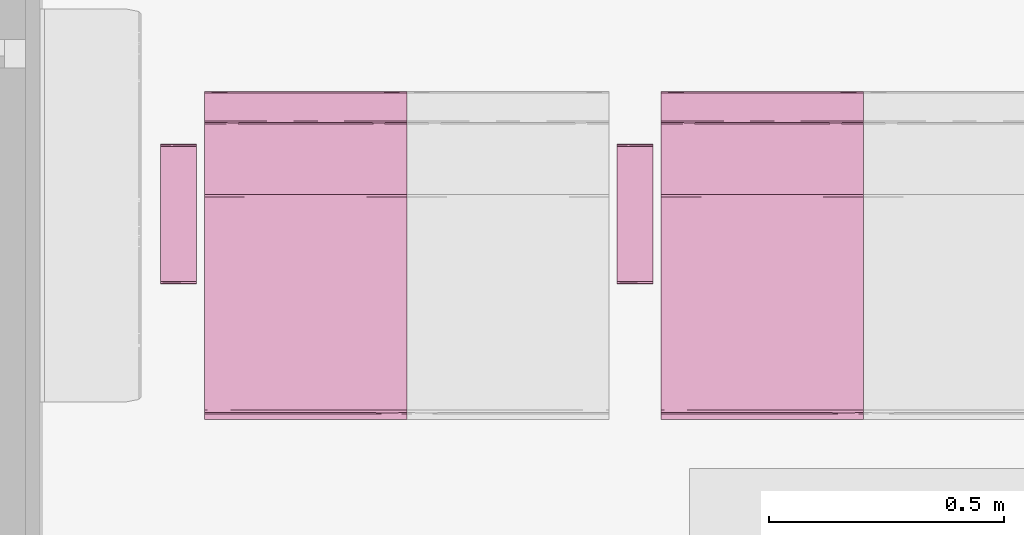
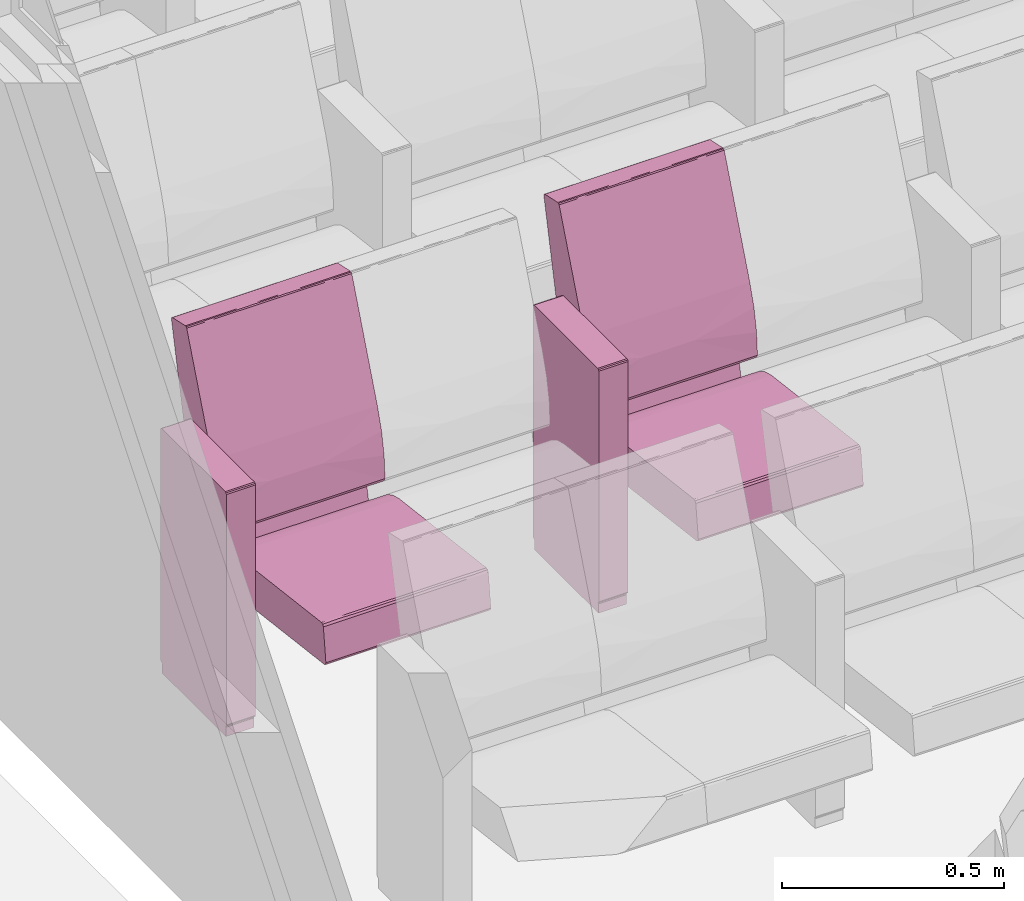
# One storey, part 95 of 155: 2 furnishings.
"""IFC2X3 building model written with IfcOpenShell, lengths in metres."""

from ifc_helpers import new_model, entity, si_unit, converted_unit, derived_unit, direction, frame, origin, place, context, subcontext, project, spatial, faceted_brep, source, transform, mapped, material, material_list, type_object, type_shapes, element, save


model = new_model("IFC2X3")

# Units and contexts
model_context = context("Model", 3, precision=1e-05, world=origin(), true_north=direction((6.12303176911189e-17, 1.0)))
body_context = subcontext(model_context, "Body", "Model", "MODEL_VIEW")
ifc_project = project(units=[si_unit("LENGTHUNIT", "METRE"), si_unit("AREAUNIT", "SQUARE_METRE"), si_unit("VOLUMEUNIT", "CUBIC_METRE"), converted_unit("PLANEANGLEUNIT", "DEGREE", entity("IfcRatioMeasure", 0.0174532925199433), si_unit("PLANEANGLEUNIT", "RADIAN"), dimensions=[0, 0, 0, 0, 0, 0, 0]), si_unit("MASSUNIT", "GRAM", prefix="KILO"), derived_unit("MASSDENSITYUNIT", [(si_unit("MASSUNIT", "GRAM", prefix="KILO"), 1), (si_unit("LENGTHUNIT", "METRE"), -3)]), si_unit("TIMEUNIT", "SECOND"), si_unit("FREQUENCYUNIT", "HERTZ"), si_unit("THERMODYNAMICTEMPERATUREUNIT", "DEGREE_CELSIUS"), derived_unit("THERMALTRANSMITTANCEUNIT", [(si_unit("MASSUNIT", "GRAM", prefix="KILO"), 1), (si_unit("THERMODYNAMICTEMPERATUREUNIT", "KELVIN"), -1), (si_unit("TIMEUNIT", "SECOND"), -3)]), derived_unit("VOLUMETRICFLOWRATEUNIT", [(si_unit("LENGTHUNIT", "METRE"), 3), (si_unit("TIMEUNIT", "SECOND"), -1)]), si_unit("ELECTRICCURRENTUNIT", "AMPERE"), si_unit("ELECTRICVOLTAGEUNIT", "VOLT"), si_unit("POWERUNIT", "WATT"), si_unit("FORCEUNIT", "NEWTON", prefix="KILO"), si_unit("ILLUMINANCEUNIT", "LUX"), si_unit("LUMINOUSFLUXUNIT", "LUMEN"), si_unit("LUMINOUSINTENSITYUNIT", "CANDELA"), derived_unit("USERDEFINED", [(si_unit("MASSUNIT", "GRAM", prefix="KILO"), -1), (si_unit("LENGTHUNIT", "METRE"), -2), (si_unit("TIMEUNIT", "SECOND"), 3), (si_unit("LUMINOUSFLUXUNIT", "LUMEN"), 1)]), derived_unit("LINEARVELOCITYUNIT", [(si_unit("LENGTHUNIT", "METRE"), 1), (si_unit("TIMEUNIT", "SECOND"), -1)]), si_unit("PRESSUREUNIT", "PASCAL"), derived_unit("USERDEFINED", [(si_unit("LENGTHUNIT", "METRE"), -2), (si_unit("MASSUNIT", "GRAM", prefix="KILO"), 1), (si_unit("TIMEUNIT", "SECOND"), -2)])], contexts=[model_context])

# Site, building, storey, space
site_placement = place(None, frame((26.9889013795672, -17.5624287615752, 0.0)))
site = spatial("IfcSite", under=ifc_project, at=site_placement, Name="Default", CompositionType="ELEMENT")
building_placement = place(site_placement, origin())
building = spatial("IfcBuilding", under=site, at=building_placement, Name="C. C. L. Monsenhor Antônio Sampaio", CompositionType="ELEMENT")
storey_placement = place(building_placement, frame((0.0, 0.0, 1.19999999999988)))
storey = spatial("IfcBuildingStorey", under=building, at=storey_placement, Name="Nível 1.2", CompositionType="ELEMENT", Elevation=1.19999999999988)
space_placement = place(storey_placement, origin())
space = spatial("IfcSpace", under=storey, at=space_placement, Name="94", CompositionType="ELEMENT", InteriorOrExteriorSpace="INTERNAL")

# Furnishings
ifc_material_1 = material(Name="V9 - V9 - Ecopelle_672_658")
ifc_material_2 = material(Name="V9 - V9 - RAL_9006_Grigio")
ifc_material_list_1 = material_list([ifc_material_1, ifc_material_2])
ifc_material_list_2 = material_list([ifc_material_1, ifc_material_2])
furniture_type = type_object("IfcFurnitureType", Name="Cadeira auditório", material=ifc_material_list_2)
shared_shape = source(origin(), body_context, "Body", "Brep", [
    faceted_brep([(0.405536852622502, 0.156348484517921, 0.339809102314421), (0.410560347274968, 0.131924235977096, 0.34246450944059), (0.405536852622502, 0.1075, 0.339809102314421), (0.405536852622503, 0.0537499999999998, 0.339809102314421), (0.410597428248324, 0.084060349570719, 0.342506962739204), (0.41079981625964, 0.0179166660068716, 0.342749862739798), (0.405536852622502, 0.215, 0.339809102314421), (0.410248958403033, 0.173608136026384, 0.342130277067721), (0.412515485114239, 0.185674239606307, 0.348529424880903), (0.412515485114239, 0.143333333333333, 0.348529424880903), (0.410560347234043, -0.131924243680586, 0.342464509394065), (0.405536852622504, -0.156348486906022, 0.33980910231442), (0.405536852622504, -0.1075, 0.33980910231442), (0.405536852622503, 0.0, 0.33980910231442), (0.41251548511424, 0.0, 0.348529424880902), (0.411170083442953, -0.0341365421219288, 0.343251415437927), (0.41059742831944, -0.0840603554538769, 0.342506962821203), (0.41251548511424, -0.143333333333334, 0.348529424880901), (0.412515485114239, 0.0358333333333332, 0.348529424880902), (0.412515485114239, 0.0716666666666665, 0.348529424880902), (0.405536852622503, -0.0537500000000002, 0.33980910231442), (0.412515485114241, -0.185674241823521, 0.348529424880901), (0.410799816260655, -0.215, 0.342749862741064), (0.410248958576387, -0.173608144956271, 0.342130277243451), (0.410799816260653, 0.215, 0.342749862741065), (0.412515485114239, 0.215, 0.348529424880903), (0.412515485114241, -0.215, 0.348529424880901), (0.41251548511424, -0.0716666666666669, 0.348529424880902), (0.405536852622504, -0.215, 0.33980910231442), (-0.0557900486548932, -0.215, 0.28268145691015), (-0.055790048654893, -0.168631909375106, 0.282681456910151), (-0.0557900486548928, -0.138065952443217, 0.282681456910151), (-0.0557900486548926, -0.107499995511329, 0.282681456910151), (-0.0557900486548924, -0.0806249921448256, 0.282681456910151), (-0.0557900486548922, -0.0537499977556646, 0.282681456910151), (-0.0557900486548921, -0.0268750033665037, 0.282681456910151), (-0.0557900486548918, 0.0, 0.28268145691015), (-0.0557900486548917, 0.0268749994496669, 0.282681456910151), (-0.0557900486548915, 0.0537499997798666, 0.282681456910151), (-0.0557900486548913, 0.0806250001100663, 0.282681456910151), (-0.0557900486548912, 0.107499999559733, 0.282681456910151), (-0.055790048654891, 0.134374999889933, 0.282681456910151), (-0.0557900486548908, 0.161250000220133, 0.282681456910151), (-0.0557900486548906, 0.1881249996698, 0.282681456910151), (-0.0557900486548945, 0.215, 0.28268145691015), (-0.0594787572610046, -0.0152829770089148, 0.283700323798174), (-0.0613666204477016, 0.0, 0.287029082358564), (-0.0594787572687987, 0.0179017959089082, 0.283700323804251), (-0.0613666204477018, 0.191815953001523, 0.287029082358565), (-0.0613666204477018, 0.215, 0.287029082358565), (-0.0594787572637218, 0.215, 0.283700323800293), (-0.0593340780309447, 0.0671874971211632, 0.283591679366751), (-0.0613666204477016, 0.030565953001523, 0.287029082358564), (-0.0594787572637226, -0.215, 0.283700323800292), (-0.0593337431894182, -0.184174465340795, 0.283591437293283), (-0.0613666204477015, -0.122263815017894, 0.287029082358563), (-0.0613666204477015, -0.0916978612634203, 0.287029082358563), (-0.0613666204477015, -0.0611319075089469, 0.287029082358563), (-0.0593023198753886, -0.0940625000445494, 0.283568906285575), (-0.059382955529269, 0.118123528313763, 0.28362747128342), (-0.0613666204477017, 0.122263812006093, 0.287029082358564), (-0.0597338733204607, 0.147039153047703, 0.283913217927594), (-0.0613666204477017, 0.168631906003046, 0.287029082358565), (-0.0592501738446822, 0.180223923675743, 0.283532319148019), (-0.0588783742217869, 0.0926899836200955, 0.283298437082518), (-0.0613666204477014, -0.215, 0.287029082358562), (-0.0613666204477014, -0.168631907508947, 0.287029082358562), (-0.0592576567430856, -0.123736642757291, 0.283537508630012), (-0.0594787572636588, -0.153348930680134, 0.283700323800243), (-0.0613666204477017, 0.0916978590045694, 0.287029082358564), (-0.0613666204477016, -0.0305659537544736, 0.287029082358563), (-0.059645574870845, -0.045848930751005, 0.283836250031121), (-0.0613666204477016, 0.0611319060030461, 0.287029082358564), (-0.069340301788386, -0.215, 0.351419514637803), (-0.0693403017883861, -0.143333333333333, 0.351419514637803), (-0.0693403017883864, -0.0716666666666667, 0.351419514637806), (-0.0693403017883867, 0.0, 0.351419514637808), (-0.069340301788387, 0.0716666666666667, 0.351419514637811), (-0.0693403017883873, 0.143333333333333, 0.351419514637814), (-0.0693403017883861, 0.215, 0.351419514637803), (-0.0597085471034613, 0.0, 0.37476954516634), (-0.0645543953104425, 0.112272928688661, 0.369803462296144), (-0.0653387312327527, 0.0126787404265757, 0.368680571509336), (-0.0681665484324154, -0.0888707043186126, 0.36292533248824), (-0.0655136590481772, -0.10440004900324, 0.368411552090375), (-0.0694879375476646, 0.0590582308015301, 0.356377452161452), (-0.0695056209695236, -0.125492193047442, 0.356093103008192), (-0.0597085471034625, -0.110316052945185, 0.374769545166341), (-0.0690003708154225, 0.132942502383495, 0.359900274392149), (-0.0672851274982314, 0.108066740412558, 0.365148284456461), (-0.0676206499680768, 0.215, 0.364371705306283), (-0.0686241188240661, 0.215, 0.356813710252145), (-0.0686241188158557, -0.214999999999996, 0.356813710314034), (-0.0686999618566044, 0.0358333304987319, 0.36116674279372), (-0.0694502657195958, -0.0358333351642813, 0.356863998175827), (-0.0676206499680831, -0.214999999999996, 0.364371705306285), (-0.0636645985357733, -0.214999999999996, 0.369570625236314), (-0.0597085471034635, -0.214999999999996, 0.374769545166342), (-0.0597085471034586, 0.215, 0.374769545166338), (-0.0636645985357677, 0.215, 0.36957062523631), (-0.0597085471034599, 0.110316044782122, 0.374769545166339), (-0.0324117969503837, 0.215, 0.390639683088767), (-0.0324117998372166, 0.0436847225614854, 0.39063968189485), (-0.0018793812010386, 0.215, 0.398686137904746), (-0.041847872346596, -0.0856576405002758, 0.386239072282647), (-0.0324117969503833, -0.215, 0.390639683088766), (-0.00187938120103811, -0.215, 0.398686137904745), (-0.00187938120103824, -0.102488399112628, 0.398686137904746), (-0.0219042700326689, -0.0570631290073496, 0.394412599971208), (-0.00187938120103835, 0.0, 0.398686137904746), (0.392202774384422, 0.215, 0.447486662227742), (0.392202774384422, -0.215, 0.447486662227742), (0.392202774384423, -0.156349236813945, 0.447486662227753), (0.392202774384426, -0.107499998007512, 0.447486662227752), (0.392202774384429, -0.0537500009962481, 0.44748666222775), (0.392202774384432, 0.0, 0.447486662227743), (0.392202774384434, 0.0537499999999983, 0.447486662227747), (0.392202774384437, 0.107499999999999, 0.447486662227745), (0.392202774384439, 0.156349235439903, 0.447486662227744), (0.398104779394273, -0.131924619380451, 0.445856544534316), (0.401125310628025, -0.0976984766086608, 0.440530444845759), (0.397860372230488, -0.0827732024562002, 0.446039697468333), (0.401125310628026, -0.215000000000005, 0.440530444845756), (0.401125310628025, -0.156349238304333, 0.440530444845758), (0.397373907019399, -0.173462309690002, 0.446363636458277), (0.398104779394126, -0.215000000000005, 0.445856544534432), (0.397860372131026, 0.0827731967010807, 0.446039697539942), (0.398104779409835, 0.131924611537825, 0.445856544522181), (0.398104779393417, -0.0237489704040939, 0.445856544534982), (0.398104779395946, 0.0268749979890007, 0.445856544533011), (0.401125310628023, 0.0488492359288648, 0.440530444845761), (0.401125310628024, -0.0488492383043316, 0.440530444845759), (0.398774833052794, 0.173462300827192, 0.445271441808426), (0.401125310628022, 0.097698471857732, 0.440530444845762), (0.401125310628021, 0.215, 0.440530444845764), (0.39810477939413, 0.215, 0.445856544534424), (0.401125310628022, 0.156349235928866, 0.440530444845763), (0.401125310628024, 0.0, 0.44053044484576)], [[[0, 1, 2]], [[3, 4, 5]], [[6, 7, 0]], [[7, 8, 9]], [[10, 11, 12]], [[3, 5, 13]], [[14, 15, 5]], [[16, 17, 10]], [[9, 1, 7]], [[18, 5, 4]], [[4, 9, 19, 18]], [[9, 4, 1]], [[2, 1, 4]], [[13, 15, 20]], [[21, 22, 23]], [[5, 18, 14]], [[24, 25, 8]], [[22, 21, 26]], [[24, 7, 6]], [[23, 11, 10]], [[20, 15, 16]], [[3, 2, 4]], [[14, 27, 15]], [[5, 15, 13]], [[27, 17, 16]], [[10, 12, 16]], [[21, 23, 17]], [[20, 16, 12]], [[15, 27, 16]], [[7, 1, 0]], [[28, 11, 23]], [[8, 7, 24]], [[23, 10, 17]], [[28, 23, 22]], [[28, 29, 30, 31, 32, 33, 34, 35, 36, 37, 38, 39, 40, 41, 42, 43, 44, 6, 0, 2, 3, 13, 20, 12, 11]], [[45, 46, 47]], [[48, 49, 50]], [[51, 47, 52]], [[29, 53, 54]], [[55, 56, 57, 58]], [[59, 60, 61]], [[61, 62, 63]], [[51, 64, 39]], [[65, 66, 54]], [[31, 67, 32]], [[45, 47, 38, 37, 36, 35]], [[68, 31, 30]], [[43, 50, 44]], [[63, 42, 61]], [[48, 50, 63]], [[64, 69, 59]], [[68, 54, 66]], [[63, 62, 48]], [[50, 43, 63]], [[67, 55, 58]], [[61, 42, 41]], [[45, 70, 46]], [[55, 68, 66]], [[71, 33, 58]], [[71, 57, 70]], [[41, 40, 59]], [[60, 62, 61]], [[71, 35, 34, 33]], [[35, 71, 45]], [[47, 46, 52]], [[45, 71, 70]], [[58, 57, 71]], [[32, 58, 33]], [[31, 68, 67]], [[54, 68, 30]], [[29, 54, 30]], [[54, 53, 65]], [[55, 67, 68]], [[32, 67, 58]], [[51, 52, 72, 69]], [[43, 42, 63]], [[41, 59, 61]], [[47, 51, 38]], [[40, 39, 64]], [[38, 51, 39]], [[69, 60, 59]], [[69, 64, 51]], [[40, 64, 59]], [[65, 73, 74, 75, 76, 77, 78, 79, 49, 48, 62, 60, 69, 72, 52, 46, 70, 57, 56, 55, 66]], [[80, 81, 82]], [[82, 83, 84]], [[78, 77, 76, 85]], [[86, 75, 74]], [[84, 80, 82]], [[80, 84, 87]], [[88, 89, 90]], [[91, 79, 78]], [[74, 73, 92]], [[85, 88, 91]], [[81, 89, 82]], [[93, 94, 83]], [[94, 86, 83]], [[85, 76, 94]], [[92, 86, 74]], [[85, 94, 93]], [[83, 92, 95]], [[75, 94, 76]], [[93, 83, 82]], [[95, 96, 84]], [[88, 85, 93]], [[96, 97, 87]], [[98, 99, 100]], [[78, 85, 91]], [[89, 88, 93]], [[90, 91, 88]], [[93, 82, 89]], [[81, 99, 89]], [[99, 90, 89]], [[100, 81, 80]], [[100, 99, 81]], [[83, 86, 92]], [[75, 86, 94]], [[95, 84, 83]], [[87, 84, 96]], [[101, 102, 103]], [[104, 80, 87, 97]], [[105, 106, 107]], [[107, 108, 105]], [[103, 102, 109]], [[104, 102, 80]], [[104, 108, 102]], [[98, 102, 101]], [[105, 104, 97]], [[105, 108, 104]], [[102, 98, 100, 80]], [[109, 108, 107]], [[109, 102, 108]], [[110, 103, 109, 107, 106, 111, 112, 113, 114, 115, 116, 117, 118]], [[119, 120, 121]], [[122, 123, 124]], [[111, 125, 124]], [[117, 116, 126]], [[124, 119, 112]], [[113, 112, 119]], [[127, 118, 117]], [[115, 114, 128, 129, 116]], [[129, 130, 126]], [[121, 131, 128]], [[127, 132, 118]], [[110, 118, 132]], [[127, 126, 133]], [[119, 124, 123]], [[134, 135, 132]], [[136, 132, 127]], [[120, 119, 123]], [[133, 136, 127]], [[137, 130, 129, 128, 131]], [[126, 127, 117]], [[130, 133, 126]], [[113, 119, 121]], [[129, 126, 116]], [[128, 114, 121]], [[114, 113, 121]], [[131, 121, 120]], [[111, 124, 112]], [[124, 125, 122]], [[134, 132, 136]], [[132, 135, 110]], [[19, 9, 8, 25, 134, 136, 133, 130, 137, 131, 120, 123, 122, 26, 21, 17, 27, 14, 18]], [[65, 53, 29, 28, 22, 26, 122, 125, 111, 106, 105, 97, 96, 95, 92, 73]], [[98, 101, 103, 110, 135, 134, 25, 24, 6, 44, 50, 49, 79, 91, 90, 99]]]),
    faceted_brep([(0.123144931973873, -0.283972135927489, 0.673627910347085), (0.12334838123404, -0.259944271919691, 0.6734355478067), (0.119812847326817, -0.27, 0.674900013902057), (0.124812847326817, -0.27, 0.669900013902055), (0.12334838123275, -0.232, 0.673435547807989), (0.119812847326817, -0.232, 0.674900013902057), (0.124812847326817, -0.308, 0.669900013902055), (0.119812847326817, -0.308, 0.674900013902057), (0.124812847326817, -0.249888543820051, 0.669900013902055), (0.124812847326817, -0.232, 0.669900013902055), (0.12334838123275, -0.308, 0.673435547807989), (0.124812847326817, -0.27, 0.035), (0.124812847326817, -0.232, 0.035), (0.124812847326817, -0.308, 0.0350000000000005), (0.123540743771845, -0.283972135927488, 0.0316679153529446), (0.12334838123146, -0.25994427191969, 0.0314644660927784), (0.119812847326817, -0.27, 0.0300000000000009), (0.12334838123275, -0.232, 0.0314644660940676), (0.119812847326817, -0.308, 0.0300000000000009), (0.119812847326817, -0.249888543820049, 0.030000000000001), (0.119812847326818, -0.232, 0.030000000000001), (0.123348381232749, -0.308, 0.0314644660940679), (-0.167179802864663, -0.308, 0.0300000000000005), (-0.167179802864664, -0.27, 0.0300000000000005), (-0.167179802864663, -0.232, 0.0300000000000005), (-0.17051188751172, -0.283972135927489, 0.0312721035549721), (-0.170715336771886, -0.25994427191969, 0.0314644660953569), (-0.172179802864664, -0.27, 0.0350000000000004), (-0.170715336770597, -0.232, 0.0314644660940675), (-0.172179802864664, -0.308, 0.0350000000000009), (-0.172179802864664, -0.24988854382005, 0.0350000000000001), (-0.172179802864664, -0.232, 0.0349999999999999), (-0.170715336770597, -0.308, 0.0314644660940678), (-0.172179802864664, -0.308, 0.669900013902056), (-0.172179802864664, -0.27, 0.669900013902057), (-0.172179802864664, -0.232, 0.669900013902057), (-0.170907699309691, -0.283972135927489, 0.673232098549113), (-0.170715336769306, -0.259944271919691, 0.673435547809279), (-0.167179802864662, -0.27, 0.674900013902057), (-0.170715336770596, -0.232, 0.67343554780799), (-0.167179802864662, -0.308, 0.674900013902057), (-0.167179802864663, -0.249888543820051, 0.674900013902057), (-0.167179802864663, -0.232, 0.674900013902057), (-0.170715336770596, -0.308, 0.67343554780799)], [[[0, 1, 2]], [[1, 0, 3]], [[1, 4, 5, 2]], [[6, 3, 0]], [[7, 0, 2]], [[4, 1, 3, 8, 9]], [[10, 0, 7]], [[0, 10, 6]], [[11, 12, 9, 8, 3, 6, 13]], [[14, 15, 11]], [[15, 14, 16]], [[15, 17, 12, 11]], [[18, 16, 14]], [[13, 14, 11]], [[17, 15, 16, 19, 20]], [[21, 14, 13]], [[14, 21, 18]], [[18, 22, 23, 24, 20, 19, 16]], [[25, 26, 23]], [[26, 25, 27]], [[26, 28, 24, 23]], [[29, 27, 25]], [[22, 25, 23]], [[28, 26, 27, 30, 31]], [[32, 25, 22]], [[25, 32, 29]], [[27, 29, 33, 34, 35, 31, 30]], [[36, 37, 34]], [[37, 36, 38]], [[37, 39, 35, 34]], [[40, 38, 36]], [[33, 36, 34]], [[39, 37, 38, 41, 42]], [[43, 36, 33]], [[36, 43, 40]], [[40, 7, 2, 5, 42, 41, 38]], [[35, 39, 42, 5, 4, 9, 12, 17, 20, 24, 28, 31]], [[29, 32, 22, 18, 21, 13, 6, 10, 7, 40, 43, 33]]]),
    faceted_brep([(-0.0695672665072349, 0.215, 0.476508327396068), (-0.074405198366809, 0.0524423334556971, 0.506888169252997), (-0.0655618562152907, 0.215, 0.415143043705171), (-0.0744051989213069, -0.0780075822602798, 0.506888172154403), (-0.0655618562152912, 0.0, 0.415143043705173), (-0.0655618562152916, -0.215, 0.415143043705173), (-0.0655618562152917, -0.1075, 0.415143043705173), (-0.0655618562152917, 0.1075, 0.415143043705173), (-0.0695672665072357, -0.215, 0.476508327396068), (-0.081111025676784, -0.215, 0.536911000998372), (-0.0811110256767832, 0.215, 0.536911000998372), (-0.100016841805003, 0.215, 0.595428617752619), (-0.100016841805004, 0.0, 0.595428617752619), (-0.100016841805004, -0.215, 0.595428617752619), (-0.0698317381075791, 0.0358333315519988, 0.406528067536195), (-0.0792851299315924, 0.0, 0.404772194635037), (-0.0792851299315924, 0.0716666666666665, 0.404772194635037), (-0.0792851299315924, -0.215, 0.404772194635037), (-0.0792851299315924, -0.143333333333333, 0.404772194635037), (-0.0698317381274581, -0.215, 0.406528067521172), (-0.0792851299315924, 0.143333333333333, 0.404772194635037), (-0.0792851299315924, 0.215, 0.404772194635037), (-0.0698317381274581, 0.215, 0.406528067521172), (-0.0694171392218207, 0.140338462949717, 0.406857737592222), (-0.0708115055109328, -0.0356393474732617, 0.405868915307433), (-0.0703502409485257, -0.107500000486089, 0.406159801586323), (-0.0792851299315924, -0.0716666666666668, 0.404772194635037), (-0.163837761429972, -0.215, 0.420611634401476), (-0.163837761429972, 0.215, 0.420611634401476), (-0.123612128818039, 0.215, 0.235917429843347), (-0.123612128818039, -0.215, 0.235917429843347), (-0.142059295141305, -0.215, 0.231899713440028), (-0.142059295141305, 0.215, 0.231899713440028), (-0.235388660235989, -0.215, 0.652619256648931), (-0.235388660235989, 0.215, 0.652619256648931), (-0.28428001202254, -0.215, 0.873004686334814), (-0.284280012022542, -0.191295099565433, 0.873004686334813), (-0.284280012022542, -0.161249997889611, 0.873004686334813), (-0.284280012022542, -0.134374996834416, 0.873004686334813), (-0.284280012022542, -0.107499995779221, 0.873004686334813), (-0.284280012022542, -0.0806249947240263, 0.873004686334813), (-0.284280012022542, -0.0537499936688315, 0.873004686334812), (-0.284280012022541, -0.0268749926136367, 0.873004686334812), (-0.28428001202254, 0.0, 0.873004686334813), (-0.284280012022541, 0.0268749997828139, 0.873004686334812), (-0.284280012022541, 0.0537500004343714, 0.873004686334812), (-0.284280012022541, 0.0806250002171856, 0.873004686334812), (-0.284280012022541, 0.1075, 0.873004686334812), (-0.284280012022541, 0.134374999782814, 0.873004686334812), (-0.28428001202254, 0.161249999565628, 0.873004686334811), (-0.28428001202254, 0.191295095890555, 0.873004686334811), (-0.28428001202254, 0.215, 0.873004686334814), (-0.283746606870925, 0.0872244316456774, 0.876674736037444), (-0.283504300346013, 0.0569644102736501, 0.877068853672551), (-0.283567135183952, -0.15546176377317, 0.876973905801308), (-0.283641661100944, -0.12093750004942, 0.87685511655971), (-0.283567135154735, 0.155461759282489, 0.876973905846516), (-0.28330409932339, 0.185293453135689, 0.877344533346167), (-0.283641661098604, 0.0179166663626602, 0.876855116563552), (-0.283641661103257, -0.0136463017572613, 0.876855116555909), (-0.280514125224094, -0.0358333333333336, 0.879190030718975), (-0.280514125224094, 0.0, 0.879190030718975), (-0.280514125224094, 0.0358333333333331, 0.879190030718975), (-0.280514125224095, -0.143333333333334, 0.879190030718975), (-0.280514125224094, -0.1075, 0.879190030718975), (-0.280514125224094, -0.071666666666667, 0.879190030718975), (-0.283746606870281, -0.0872244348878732, 0.876674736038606), (-0.280514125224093, 0.0716666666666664, 0.879190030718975), (-0.280514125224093, 0.1075, 0.879190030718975), (-0.283641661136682, 0.120937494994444, 0.876855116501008), (-0.280514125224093, 0.143333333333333, 0.879190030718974), (-0.283641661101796, 0.215, 0.876855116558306), (-0.283641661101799, -0.215, 0.876855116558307), (-0.283304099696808, -0.18529345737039, 0.877344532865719), (-0.280514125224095, -0.167590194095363, 0.879190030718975), (-0.280514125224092, 0.215, 0.879190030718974), (-0.280514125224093, 0.167590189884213, 0.879190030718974), (-0.280514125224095, -0.215, 0.879190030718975), (-0.283504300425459, -0.0569644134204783, 0.8770688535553), (-0.22111253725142, 0.215, 0.892176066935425), (-0.22111253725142, -0.215, 0.892176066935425), (-0.221112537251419, -0.191815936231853, 0.892176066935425), (-0.221112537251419, -0.161250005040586, 0.892176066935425), (-0.221112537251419, -0.134375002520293, 0.892176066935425), (-0.221112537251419, -0.1075, 0.892176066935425), (-0.221112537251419, -0.080624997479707, 0.892176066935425), (-0.221112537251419, -0.0537499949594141, 0.892176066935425), (-0.221112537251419, -0.0268750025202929, 0.892176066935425), (-0.221112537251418, 0.0, 0.892176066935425), (-0.221112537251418, 0.0268750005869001, 0.892176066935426), (-0.221112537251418, 0.05375000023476, 0.892176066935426), (-0.221112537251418, 0.0806249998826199, 0.892176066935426), (-0.221112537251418, 0.10749999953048, 0.892176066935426), (-0.221112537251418, 0.13437499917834, 0.892176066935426), (-0.221112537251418, 0.16124999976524, 0.892176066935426), (-0.221112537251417, 0.19181594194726, 0.892176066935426), (-0.215419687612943, 0.0, 0.889191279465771), (-0.215419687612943, 0.0358333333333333, 0.889191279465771), (-0.217722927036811, 0.0162353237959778, 0.891719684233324), (-0.217722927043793, -0.0134375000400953, 0.891719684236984), (-0.215419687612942, -0.191815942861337, 0.889191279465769), (-0.215419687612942, -0.168631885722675, 0.889191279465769), (-0.217722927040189, -0.182482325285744, 0.891719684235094), (-0.217722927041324, -0.215, 0.891719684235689), (-0.215419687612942, -0.215, 0.889191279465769), (-0.215419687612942, -0.1075, 0.88919127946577), (-0.215419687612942, -0.0716666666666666, 0.88919127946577), (-0.217722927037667, -0.0912646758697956, 0.891719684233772), (-0.217722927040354, -0.120937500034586, 0.89171968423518), (-0.215419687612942, -0.143333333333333, 0.88919127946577), (-0.215419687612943, 0.191815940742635, 0.889191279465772), (-0.215419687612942, 0.215, 0.889191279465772), (-0.217722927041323, 0.215, 0.89171968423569), (-0.217722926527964, 0.190103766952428, 0.891719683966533), (-0.217722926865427, 0.0912646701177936, 0.891719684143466), (-0.217816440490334, 0.0647800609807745, 0.891767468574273), (-0.215419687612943, 0.0716666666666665, 0.889191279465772), (-0.217816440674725, -0.0647800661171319, 0.891767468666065), (-0.2179983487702, -0.0390825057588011, 0.891853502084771), (-0.217558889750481, -0.155982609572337, 0.891629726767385), (-0.217722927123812, 0.120937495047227, 0.891719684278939), (-0.215419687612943, 0.16863188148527, 0.889191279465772), (-0.215419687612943, 0.143333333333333, 0.889191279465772), (-0.217558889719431, 0.15598260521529, 0.891629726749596), (-0.215419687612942, -0.0358333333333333, 0.889191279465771), (-0.215419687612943, 0.1075, 0.889191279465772), (-0.218257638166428, 0.0404491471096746, 0.891961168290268)], [[[0, 1, 2]], [[1, 3, 4]], [[3, 5, 6, 4]], [[1, 4, 7, 2]], [[5, 3, 8]], [[8, 3, 9]], [[0, 10, 1]], [[11, 12, 1]], [[3, 13, 9]], [[3, 12, 13]], [[11, 1, 10]], [[3, 1, 12]], [[14, 15, 16]], [[17, 18, 19]], [[20, 21, 22]], [[2, 23, 22]], [[14, 7, 4]], [[14, 24, 15]], [[6, 25, 24]], [[22, 23, 20]], [[14, 23, 7]], [[19, 6, 5]], [[4, 24, 14]], [[16, 23, 14]], [[16, 20, 23]], [[26, 25, 18]], [[25, 19, 18]], [[15, 24, 26]], [[23, 2, 7]], [[19, 25, 6]], [[26, 24, 25]], [[6, 24, 4]], [[15, 26, 18, 17, 27, 28, 21, 20, 16]], [[29, 28, 27, 30]], [[30, 31, 32, 29]], [[32, 31, 33, 34]], [[34, 33, 35, 36, 37, 38, 39, 40, 41, 42, 43, 44, 45, 46, 47, 48, 49, 50, 51]], [[52, 46, 53]], [[38, 54, 55]], [[56, 57, 49]], [[58, 59, 60, 61, 62]], [[63, 64, 55]], [[64, 65, 66]], [[52, 67, 68]], [[69, 70, 56]], [[49, 57, 50]], [[38, 55, 39]], [[71, 51, 50]], [[36, 35, 72]], [[59, 58, 44, 43, 42]], [[73, 74, 54]], [[55, 66, 39]], [[75, 57, 76]], [[77, 74, 73]], [[69, 52, 68]], [[37, 36, 73]], [[54, 74, 63]], [[56, 76, 57]], [[36, 72, 73]], [[75, 71, 57]], [[70, 76, 56]], [[52, 69, 47]], [[48, 47, 69]], [[42, 78, 59]], [[66, 55, 64]], [[50, 57, 71]], [[73, 54, 37]], [[77, 73, 72]], [[48, 69, 56]], [[56, 49, 48]], [[69, 68, 70]], [[53, 46, 45, 44]], [[58, 62, 53]], [[53, 44, 58]], [[38, 37, 54]], [[63, 55, 54]], [[78, 66, 65]], [[78, 40, 66]], [[67, 52, 53]], [[78, 42, 41, 40]], [[65, 60, 78]], [[59, 78, 60]], [[52, 47, 46]], [[40, 39, 66]], [[62, 67, 53]], [[79, 75, 76, 70, 68, 67, 62, 61, 60, 65, 64, 63, 74, 77, 80, 81, 82, 83, 84, 85, 86, 87, 88, 89, 90, 91, 92, 93, 94, 95]], [[96, 97, 98, 99]], [[100, 101, 102, 103, 104]], [[105, 106, 107, 108, 109]], [[110, 111, 112]], [[113, 112, 95]], [[114, 115, 116]], [[117, 118, 86]], [[82, 119, 83]], [[102, 82, 81, 80, 103]], [[112, 79, 95]], [[108, 107, 85, 84, 83]], [[88, 87, 99, 98, 89]], [[119, 101, 109]], [[93, 92, 120]], [[117, 85, 107]], [[113, 121, 110]], [[122, 121, 123]], [[113, 94, 123]], [[124, 99, 118]], [[122, 123, 120]], [[108, 119, 109]], [[113, 110, 112]], [[102, 101, 119]], [[119, 108, 83]], [[114, 125, 120]], [[123, 94, 93]], [[93, 120, 123]], [[114, 120, 92]], [[122, 120, 125]], [[117, 107, 106]], [[114, 92, 91]], [[116, 125, 114]], [[115, 91, 90]], [[85, 117, 86]], [[126, 89, 98]], [[117, 106, 124]], [[118, 99, 87]], [[124, 96, 99]], [[97, 116, 115]], [[97, 115, 126]], [[86, 118, 87]], [[124, 118, 117]], [[91, 115, 114]], [[115, 90, 126]], [[89, 126, 90]], [[97, 126, 98]], [[82, 102, 119]], [[94, 113, 95]], [[121, 113, 123]], [[11, 111, 110, 121, 122, 125, 116, 97, 96, 124, 106, 105, 109, 101, 100, 104, 13, 12]], [[27, 17, 19, 5, 8, 9, 13, 104, 103, 80, 77, 72, 35, 33, 31, 30]], [[51, 71, 75, 79, 112, 111, 11, 10, 0, 2, 22, 21, 28, 29, 32, 34]]]),
    faceted_brep([(0.120312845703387, -0.2335, 0.0), (0.120312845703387, -0.2335, 0.0260000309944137), (0.120312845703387, -0.249500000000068, 0.0260000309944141), (0.120312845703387, -0.27, 0.0260000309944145), (0.120312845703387, -0.3065, 0.0260000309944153), (0.120312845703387, -0.3065, 0.0), (-0.167687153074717, -0.3065, 0.0), (-0.167687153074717, -0.2335, 0.0), (-0.167687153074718, -0.27, 0.0260000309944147), (-0.167687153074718, -0.2335, 0.0260000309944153), (-0.167687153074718, -0.3065, 0.0260000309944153), (-0.166521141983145, -0.233500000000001, 0.0288228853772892), (-0.166521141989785, -0.257382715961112, 0.0288228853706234), (-0.163702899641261, -0.233500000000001, 0.0300000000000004), (-0.163702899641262, -0.3065, 0.0300000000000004), (-0.16652114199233, -0.279986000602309, 0.0288228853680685), (-0.166521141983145, -0.3065, 0.0288228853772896), (-0.163702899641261, -0.27, 0.0300000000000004), (0.116297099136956, -0.3065, 0.0300000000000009), (0.116297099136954, -0.269999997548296, 0.0300000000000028), (0.116297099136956, -0.2335, 0.0300000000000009), (0.119033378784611, -0.283124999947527, 0.0289323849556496), (0.1191357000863, -0.2335, 0.0288340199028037), (0.119135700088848, -0.259750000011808, 0.0288340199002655), (0.119135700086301, -0.3065, 0.0288340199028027)], [[[0, 1, 2, 3, 4, 5]], [[0, 5, 6, 7]], [[8, 9, 7, 6, 10]], [[11, 12, 13]], [[14, 15, 16]], [[15, 14, 17, 13, 12]], [[9, 8, 12, 11]], [[16, 15, 10]], [[8, 10, 15, 12]], [[14, 18, 19, 20, 13, 17]], [[21, 4, 3]], [[22, 20, 19, 23]], [[3, 2, 1, 22, 23]], [[24, 21, 18]], [[21, 3, 23]], [[18, 21, 19]], [[21, 24, 4]], [[21, 23, 19]], [[6, 5, 4, 24, 18, 14, 16, 10]], [[7, 9, 11, 13, 20, 22, 1, 0]]]),
])
type_shapes(furniture_type, [shared_shape])
furnishing_1_placement = place(space_placement, frame((-12.4559492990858, -14.3320195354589, 0.0), z_axis=(0.0, 0.0, 1.0), x_axis=(0.0, -1.0, 0.0)))
element("IfcFurnishingElement", 1, at=furnishing_1_placement, inside=space, type_object=furniture_type, material=ifc_material_list_1, Name="cadeira auditório pcd:Cadeira auditório", ObjectType="Cadeira auditório", context=body_context, shape_type="MappedRepresentation", body=[
    mapped(shared_shape, transform((0.0, 0.0, 0.0), scale=1.0)),
])
ifc_material_list_3 = material_list([ifc_material_1, ifc_material_2])
furnishing_2_placement = place(space_placement, frame((-13.4259492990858, -14.3320195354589, 0.0), z_axis=(0.0, 0.0, 1.0), x_axis=(0.0, -1.0, 0.0)))
element("IfcFurnishingElement", 2, at=furnishing_2_placement, inside=space, type_object=furniture_type, material=ifc_material_list_3, Name="cadeira auditório pcd:Cadeira auditório", ObjectType="Cadeira auditório", context=body_context, shape_type="MappedRepresentation", body=[
    mapped(shared_shape, transform((0.0, 0.0, 0.0), scale=1.0)),
])

save(model, "model.ifc")
